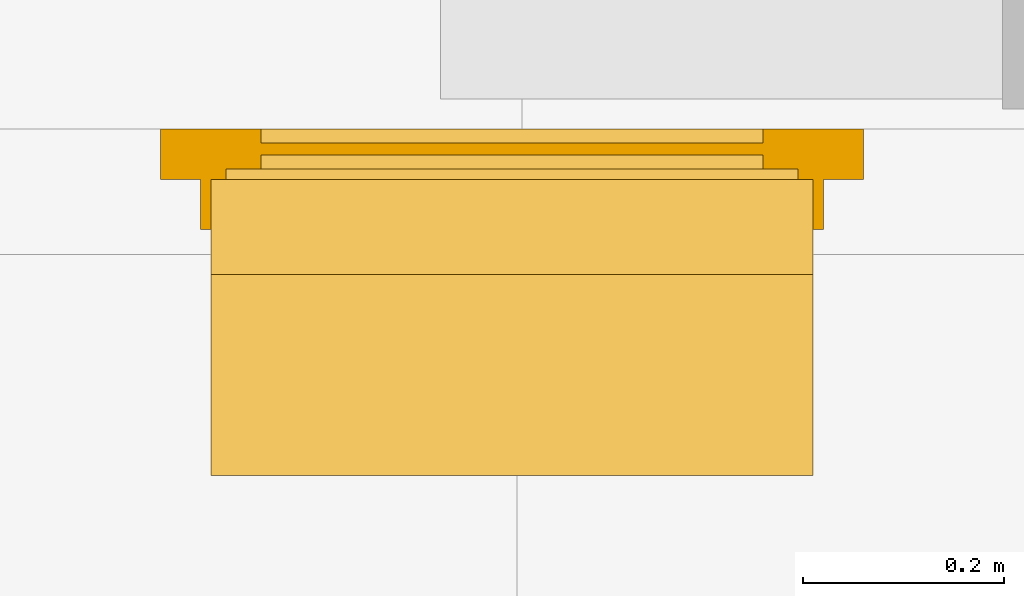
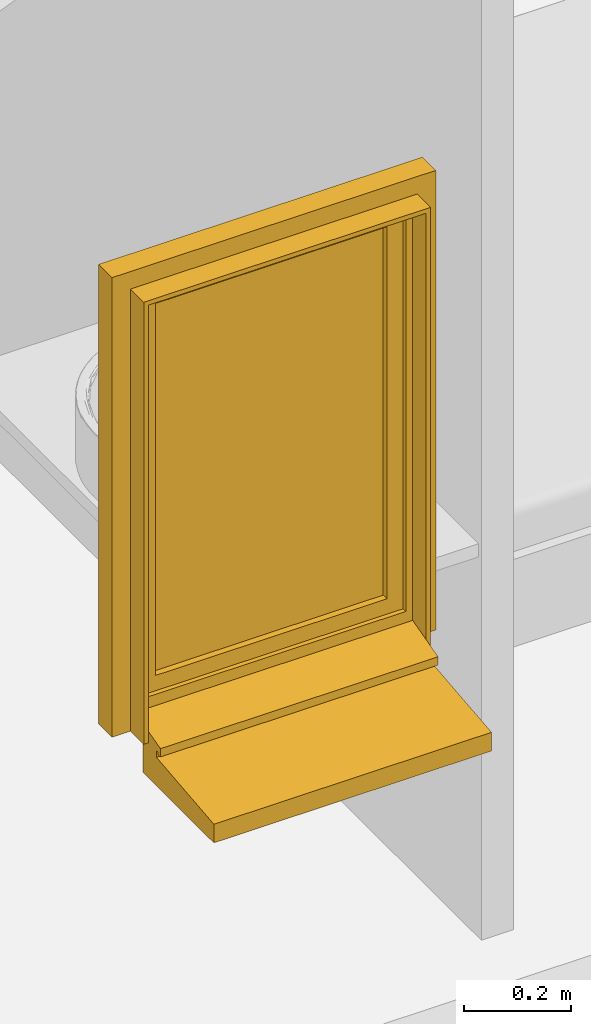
# One storey, part 4 of 6: 1 window.
"""IFC2X3 building model written with IfcOpenShell, lengths in metres."""

from ifc_helpers import new_model, entity, si_unit, converted_unit, derived_unit, direction, frame, origin, place, context, subcontext, project, spatial, faceted_brep, source, transform, mapped, material, material_list, type_object, type_shapes, element, save


model = new_model("IFC2X3")

# Units and contexts
model_context = context("Model", 3, precision=1e-05, world=origin(), true_north=direction((6.12303176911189e-17, 1.0)))
body_context = subcontext(model_context, "Body", "Model", "MODEL_VIEW")
ifc_project = project(units=[si_unit("LENGTHUNIT", "METRE"), si_unit("AREAUNIT", "SQUARE_METRE"), si_unit("VOLUMEUNIT", "CUBIC_METRE"), converted_unit("PLANEANGLEUNIT", "DEGREE", entity("IfcRatioMeasure", 0.0174532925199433), si_unit("PLANEANGLEUNIT", "RADIAN"), dimensions=[0, 0, 0, 0, 0, 0, 0]), si_unit("MASSUNIT", "GRAM", prefix="KILO"), derived_unit("MASSDENSITYUNIT", [(si_unit("MASSUNIT", "GRAM", prefix="KILO"), 1), (si_unit("LENGTHUNIT", "METRE"), -3)]), derived_unit("MOMENTOFINERTIAUNIT", [(si_unit("LENGTHUNIT", "METRE"), 4)]), si_unit("TIMEUNIT", "SECOND"), si_unit("FREQUENCYUNIT", "HERTZ"), si_unit("THERMODYNAMICTEMPERATUREUNIT", "DEGREE_CELSIUS"), derived_unit("THERMALTRANSMITTANCEUNIT", [(si_unit("MASSUNIT", "GRAM", prefix="KILO"), 1), (si_unit("THERMODYNAMICTEMPERATUREUNIT", "KELVIN"), -1), (si_unit("TIMEUNIT", "SECOND"), -3)]), derived_unit("VOLUMETRICFLOWRATEUNIT", [(si_unit("LENGTHUNIT", "METRE"), 3), (si_unit("TIMEUNIT", "SECOND"), -1)]), si_unit("ELECTRICCURRENTUNIT", "AMPERE"), si_unit("ELECTRICVOLTAGEUNIT", "VOLT"), si_unit("POWERUNIT", "WATT"), si_unit("FORCEUNIT", "NEWTON", prefix="KILO"), si_unit("ILLUMINANCEUNIT", "LUX"), si_unit("LUMINOUSFLUXUNIT", "LUMEN"), si_unit("LUMINOUSINTENSITYUNIT", "CANDELA"), derived_unit("USERDEFINED", [(si_unit("MASSUNIT", "GRAM", prefix="KILO"), -1), (si_unit("LENGTHUNIT", "METRE"), -2), (si_unit("TIMEUNIT", "SECOND"), 3), (si_unit("LUMINOUSFLUXUNIT", "LUMEN"), 1)]), derived_unit("LINEARVELOCITYUNIT", [(si_unit("LENGTHUNIT", "METRE"), 1), (si_unit("TIMEUNIT", "SECOND"), -1)]), si_unit("PRESSUREUNIT", "PASCAL"), derived_unit("USERDEFINED", [(si_unit("LENGTHUNIT", "METRE"), -2), (si_unit("MASSUNIT", "GRAM", prefix="KILO"), 1), (si_unit("TIMEUNIT", "SECOND"), -2)]), derived_unit("LINEARFORCEUNIT", [(si_unit("MASSUNIT", "GRAM", prefix="KILO"), 1), (si_unit("LENGTHUNIT", "METRE"), 1), (si_unit("TIMEUNIT", "SECOND"), -2), (si_unit("LENGTHUNIT", "METRE"), -1)]), derived_unit("PLANARFORCEUNIT", [(si_unit("MASSUNIT", "GRAM", prefix="KILO"), 1), (si_unit("LENGTHUNIT", "METRE"), 1), (si_unit("TIMEUNIT", "SECOND"), -2), (si_unit("LENGTHUNIT", "METRE"), -2)])], contexts=[model_context])

# Site, building, storey
site_placement = place(None, origin())
site = spatial("IfcSite", under=ifc_project, at=site_placement, Name="Surface", CompositionType="ELEMENT")
building_placement = place(site_placement, origin())
building = spatial("IfcBuilding", under=site, at=building_placement, CompositionType="ELEMENT")
storey_placement = place(building_placement, frame((0.0, 0.0, 5.6)))
storey = spatial("IfcBuildingStorey", under=building, at=storey_placement, Name="Niveau comble", CompositionType="ELEMENT", Elevation=5.6)

# Window
ifc_material_1 = material(Name="Fenêtre - Poignée")
ifc_material_2 = material(Name="Fenêtre - Appui")
ifc_material_3 = material(Name="Fenêtre - Vitrage")
ifc_material_4 = material(Name="Fenêtre - Cadre")
ifc_material_list_1 = material_list([ifc_material_1, ifc_material_2, ifc_material_3, ifc_material_4])
ifc_material_list_2 = material_list([ifc_material_4, ifc_material_3, ifc_material_2, ifc_material_1])
window_style = type_object("IfcWindowStyle", Name="1 Vantail - Droit:0.60m x 1.00m - Appui Béton 3", ConstructionType="NOTDEFINED", OperationType="SINGLE_PANEL", ParameterTakesPrecedence=False, Sizeable=False, material=ifc_material_list_2)
shared_shape = source(origin(), body_context, "Body", "Brep", [
    faceted_brep([(0.0806460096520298, -0.67100000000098, 0.702033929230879), (0.08203392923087, -0.67100000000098, 0.700646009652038), (0.08203392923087, -0.67100000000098, 0.689332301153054), (0.0806676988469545, -0.67100000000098, 0.687966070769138), (0.0693323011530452, -0.67100000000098, 0.687966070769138), (0.0679660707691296, -0.67100000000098, 0.689332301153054), (0.0679660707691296, -0.67100000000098, 0.700646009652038), (0.0693539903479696, -0.67100000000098, 0.702033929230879), (0.0806460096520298, -0.683913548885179, 0.702033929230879), (0.08203392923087, -0.68333865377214, 0.700646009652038), (0.08203392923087, -0.69664600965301, 0.687338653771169), (0.08203392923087, -0.69664600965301, 0.600000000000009), (0.08203392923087, -0.685332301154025, 0.600000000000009), (0.08203392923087, -0.685332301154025, 0.682652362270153), (0.08203392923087, -0.678652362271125, 0.689332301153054), (0.0806676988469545, -0.67808645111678, 0.687966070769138), (0.0693323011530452, -0.67808645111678, 0.687966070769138), (0.0679660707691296, -0.678652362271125, 0.689332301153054), (0.0679660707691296, -0.685332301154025, 0.682652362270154), (0.0679660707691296, -0.685332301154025, 0.600000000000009), (0.0679660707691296, -0.69664600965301, 0.600000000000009), (0.0679660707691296, -0.69664600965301, 0.687338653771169), (0.0679660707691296, -0.68333865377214, 0.700646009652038), (0.0693539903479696, -0.683913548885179, 0.702033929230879), (0.0806460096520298, -0.69803392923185, 0.687913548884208), (0.0806676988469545, -0.683966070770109, 0.68208645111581), (0.0693323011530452, -0.683966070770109, 0.68208645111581), (0.0693539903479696, -0.69803392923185, 0.687913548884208), (0.0806460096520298, -0.69803392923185, 0.600000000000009), (0.0693539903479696, -0.69803392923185, 0.600000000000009), (0.0693323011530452, -0.683966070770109, 0.600000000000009), (0.0806676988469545, -0.683966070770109, 0.600000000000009)], [[[0, 1, 2, 3, 4, 5, 6, 7]], [[1, 0, 8, 9]], [[2, 1, 9, 10, 11, 12, 13, 14]], [[3, 2, 14, 15]], [[4, 3, 15, 16]], [[5, 4, 16, 17]], [[6, 5, 17, 18, 19, 20, 21, 22]], [[7, 6, 22, 23]], [[0, 7, 23, 8]], [[9, 8, 24, 10]], [[15, 14, 13, 25]], [[16, 15, 25, 26]], [[17, 16, 26, 18]], [[23, 22, 21, 27]], [[8, 23, 27, 24]], [[28, 29, 20, 19, 30, 31, 12, 11]], [[10, 24, 28, 11]], [[25, 13, 12, 31]], [[26, 25, 31, 30]], [[18, 26, 30, 19]], [[27, 21, 20, 29]], [[24, 27, 29, 28]]]),
    faceted_brep([(0.0820000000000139, -0.671000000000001, 0.720000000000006), (0.0679999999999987, -0.671000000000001, 0.720000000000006), (0.0629999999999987, -0.671000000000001, 0.715000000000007), (0.0629999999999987, -0.671000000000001, 0.644999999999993), (0.0679999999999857, -0.671000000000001, 0.640000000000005), (0.0820000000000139, -0.671000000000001, 0.640000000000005), (0.0869999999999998, -0.671000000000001, 0.644999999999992), (0.0869999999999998, -0.671000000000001, 0.715000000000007), (0.0820000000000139, -0.665000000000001, 0.720000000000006), (0.0869999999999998, -0.665000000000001, 0.715000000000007), (0.0869999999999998, -0.665000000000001, 0.644999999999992), (0.0820000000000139, -0.665000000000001, 0.640000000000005), (0.0679999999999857, -0.665000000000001, 0.640000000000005), (0.0629999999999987, -0.665000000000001, 0.644999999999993), (0.0629999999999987, -0.665000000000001, 0.715000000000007), (0.0679999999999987, -0.665000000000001, 0.720000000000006)], [[[0, 1, 2, 3, 4, 5, 6, 7]], [[8, 9, 10, 11, 12, 13, 14, 15]], [[1, 0, 8, 15]], [[2, 1, 15, 14]], [[3, 2, 14, 13]], [[4, 3, 13, 12]], [[5, 4, 12, 11]], [[6, 5, 11, 10]], [[7, 6, 10, 9]], [[0, 7, 9, 8]]]),
    faceted_brep([(0.0499999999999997, -0.584999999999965, 0.0799999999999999), (0.0499999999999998, -0.534999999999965, 0.0799999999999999), (0.0499999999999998, -0.534999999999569, 0.0650000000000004), (0.0500000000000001, -0.319999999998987, 0.0424025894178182), (0.0500000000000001, -0.319999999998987, 0.0), (0.0499999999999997, -0.584999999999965, 0.0), (0.649999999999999, -0.584999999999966, 0.0799999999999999), (0.649999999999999, -0.584999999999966, 0.0), (0.65, -0.319999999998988, 0.0), (0.65, -0.319999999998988, 0.0424025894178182), (0.649999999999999, -0.53499999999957, 0.0650000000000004), (0.649999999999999, -0.534999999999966, 0.0799999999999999)], [[[0, 1, 2, 3, 4, 5]], [[6, 7, 8, 9, 10, 11]], [[1, 0, 6, 11]], [[2, 1, 11, 10]], [[3, 2, 10, 9]], [[4, 3, 9, 8]], [[5, 4, 8, 7]], [[0, 5, 7, 6]]]),
    faceted_brep([(0.0999999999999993, -0.639000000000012, 0.18), (0.0999999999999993, -0.639000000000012, 1.03), (0.6, -0.639000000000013, 1.03), (0.6, -0.639000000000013, 0.18), (0.0999999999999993, -0.651000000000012, 0.18), (0.0999999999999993, -0.651000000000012, 1.03), (0.599999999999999, -0.651000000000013, 1.03), (0.599999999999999, -0.651000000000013, 0.18)], [[[0, 1, 2, 3]], [[1, 0, 4, 5]], [[3, 2, 6, 7]], [[0, 3, 7, 4]], [[4, 7, 6, 5]], [[2, 1, 5, 6]]]),
    faceted_brep([(0.0999999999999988, -0.625000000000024, 1.03), (0.0999999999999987, -0.665000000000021, 1.03), (0.0999999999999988, -0.665000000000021, 0.179999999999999), (0.099999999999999, -0.625000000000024, 0.179999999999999), (0.6, -0.665000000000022, 0.179999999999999), (0.6, -0.625000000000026, 0.179999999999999), (0.6, -0.665000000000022, 1.03), (0.649999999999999, -0.665000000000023, 0.13), (0.649999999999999, -0.665000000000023, 1.08), (0.0499999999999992, -0.665000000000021, 1.08), (0.0499999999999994, -0.665000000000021, 0.13), (0.6, -0.625000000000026, 1.03), (0.0499999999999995, -0.625000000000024, 0.13), (0.0499999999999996, -0.625000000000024, 1.08), (0.65, -0.625000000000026, 1.08), (0.65, -0.625000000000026, 0.13)], [[[0, 1, 2, 3]], [[3, 2, 4, 5]], [[2, 1, 6, 4], [7, 8, 9, 10]], [[5, 4, 6, 11]], [[5, 11, 0, 3], [12, 13, 14, 15]], [[9, 13, 12, 10]], [[10, 12, 15, 7]], [[7, 15, 14, 8]], [[11, 6, 1, 0]], [[8, 14, 13, 9]]], outer=[[True], [True], [False, True], [True], [False, True], [True], [True], [True], [True], [True]]),
    faceted_brep([(0.0, -0.665000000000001, 0.0799999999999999), (0.0, -0.615000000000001, 0.0799999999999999), (0.0499999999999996, -0.615000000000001, 0.0799999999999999), (0.0499999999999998, -0.530000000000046, 0.0799999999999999), (0.649999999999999, -0.530000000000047, 0.0800000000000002), (0.649999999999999, -0.615000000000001, 0.0799999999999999), (0.699999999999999, -0.615000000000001, 0.0799999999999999), (0.699999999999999, -0.665000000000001, 0.0799999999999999), (0.0, -0.665000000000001, 1.13), (0.0, -0.615000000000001, 1.13), (0.699999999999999, -0.615000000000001, 1.13), (0.649999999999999, -0.615000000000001, 0.119376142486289), (0.0499999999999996, -0.615000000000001, 0.119376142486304), (0.0649999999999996, -0.615000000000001, 1.065), (0.0649999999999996, -0.615000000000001, 0.145), (0.634999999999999, -0.615000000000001, 0.145), (0.634999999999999, -0.615000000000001, 1.065), (0.0499999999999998, -0.520000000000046, 0.0939209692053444), (0.0499999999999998, -0.520000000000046, 0.0749999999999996), (0.0499999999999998, -0.530000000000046, 0.0749999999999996), (0.649999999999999, -0.530000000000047, 0.0749999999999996), (0.649999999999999, -0.520000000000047, 0.0749999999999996), (0.649999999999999, -0.520000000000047, 0.0939209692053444), (0.699999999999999, -0.665000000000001, 1.13), (0.649999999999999, -0.665000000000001, 1.08), (0.649999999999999, -0.665000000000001, 0.13), (0.0499999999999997, -0.665000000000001, 0.13), (0.0499999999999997, -0.665000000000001, 1.08), (0.0649999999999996, -0.625000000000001, 1.065), (0.0649999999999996, -0.625000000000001, 0.145), (0.634999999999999, -0.625000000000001, 0.145), (0.634999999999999, -0.625000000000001, 1.065), (0.649999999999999, -0.625000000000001, 1.08), (0.0499999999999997, -0.625000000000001, 1.08), (0.0499999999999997, -0.625000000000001, 0.13), (0.649999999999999, -0.625000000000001, 0.13)], [[[0, 1, 2, 3, 4, 5, 6, 7]], [[1, 0, 8, 9]], [[1, 9, 10, 6, 5, 11, 12, 2], [13, 14, 15, 16]], [[12, 17, 18, 19, 3, 2]], [[3, 19, 20, 4]], [[4, 20, 21, 22, 11, 5]], [[6, 10, 23, 7]], [[0, 7, 23, 8], [24, 25, 26, 27]], [[13, 28, 29, 14]], [[29, 30, 15, 14]], [[31, 16, 15, 30]], [[17, 12, 11, 22]], [[32, 33, 34, 35], [28, 31, 30, 29]], [[34, 33, 27, 26]], [[26, 25, 35, 34]], [[24, 32, 35, 25]], [[18, 17, 22, 21]], [[19, 18, 21, 20]], [[13, 16, 31, 28]], [[33, 32, 24, 27]], [[10, 9, 8, 23]]]),
    faceted_brep([(0.0499999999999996, -0.564999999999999, 0.0799999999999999), (0.0499999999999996, -0.615000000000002, 0.0799999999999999), (0.0399999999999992, -0.615000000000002, 0.0799999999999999), (0.0399999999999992, -0.564999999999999, 0.0799999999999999), (0.0499999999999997, -0.564999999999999, 1.08), (0.0499999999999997, -0.615000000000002, 1.08), (0.649999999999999, -0.615000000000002, 1.08), (0.649999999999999, -0.615000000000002, 0.0799999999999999), (0.66, -0.615000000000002, 0.0799999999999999), (0.66, -0.615000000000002, 1.09), (0.0399999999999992, -0.615000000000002, 1.09), (0.0399999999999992, -0.564999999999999, 1.09), (0.66, -0.564999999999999, 1.09), (0.66, -0.564999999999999, 0.0799999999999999), (0.649999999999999, -0.564999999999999, 0.0799999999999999), (0.649999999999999, -0.564999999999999, 1.08)], [[[0, 1, 2, 3]], [[1, 0, 4, 5]], [[2, 1, 5, 6, 7, 8, 9, 10]], [[3, 2, 10, 11]], [[0, 3, 11, 12, 13, 14, 15, 4]], [[6, 15, 14, 7]], [[14, 13, 8, 7]], [[12, 9, 8, 13]], [[5, 4, 15, 6]], [[11, 10, 9, 12]]]),
])
type_shapes(window_style, [shared_shape])
window_placement = place(storey_placement, frame((7.5093960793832, -1.0907418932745, 0.72), z_axis=(0.0, 0.0, 1.0), x_axis=(-1.0, 0.0, 0.0)))
element("IfcWindow", 1, at=window_placement, inside=storey, type_object=window_style, material=ifc_material_list_1, Name="1 Vantail - Droit:0.60m x 1.00m - Appui Béton 3", ObjectType="1 Vantail - Droit:0.60m x 1.00m - Appui Béton 3", OverallHeight=1.13, OverallWidth=0.699999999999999, context=body_context, shape_type="MappedRepresentation", body=[
    mapped(shared_shape, transform((0.0, 0.0, 0.0), scale=1.0)),
])

save(model, "model.ifc")
